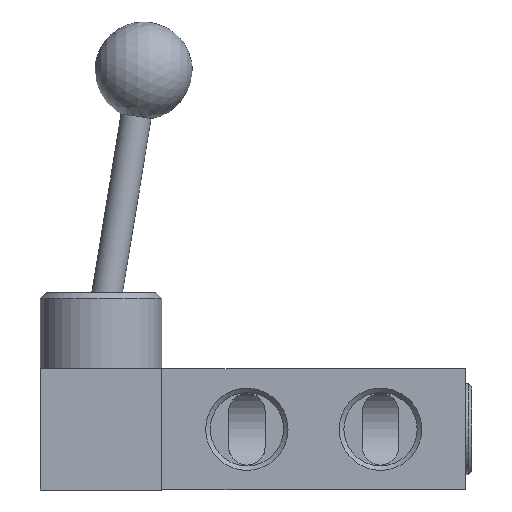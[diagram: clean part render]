
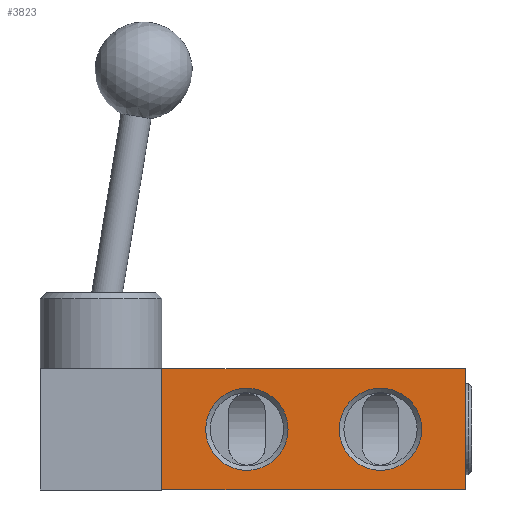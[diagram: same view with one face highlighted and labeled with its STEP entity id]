
A CAD part, front view. The second image highlights one B-rep face of the part: STEP entity #3823.
In plain terms, the highlighted planar face has unit normal (0, -1, 0).
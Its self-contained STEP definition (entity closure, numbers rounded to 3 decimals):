
#242=LINE('',#5282,#448);
#262=LINE('',#5412,#468);
#276=LINE('',#5626,#482);
#279=LINE('',#5635,#485);
#448=VECTOR('',#4496,1000.);
#468=VECTOR('',#4524,1000.);
#482=VECTOR('',#4612,1000.);
#485=VECTOR('',#4625,1000.);
#909=ORIENTED_EDGE('',*,*,#1460,.T.);
#910=ORIENTED_EDGE('',*,*,#1461,.T.);
#911=ORIENTED_EDGE('',*,*,#1459,.T.);
#912=ORIENTED_EDGE('',*,*,#1409,.F.);
#913=ORIENTED_EDGE('',*,*,#1455,.F.);
#914=ORIENTED_EDGE('',*,*,#1380,.T.);
#1380=EDGE_CURVE('',#1691,#1689,#242,.T.);
#1409=EDGE_CURVE('',#1719,#1716,#262,.T.);
#1455=EDGE_CURVE('',#1691,#1719,#276,.T.);
#1459=EDGE_CURVE('',#1689,#1716,#279,.T.);
#1460=EDGE_CURVE('',#1766,#1766,#1911,.F.);
#1461=EDGE_CURVE('',#1767,#1767,#1912,.F.);
#1689=VERTEX_POINT('',#5280);
#1691=VERTEX_POINT('',#5283);
#1716=VERTEX_POINT('',#5406);
#1719=VERTEX_POINT('',#5411);
#1766=VERTEX_POINT('',#5638);
#1767=VERTEX_POINT('',#5640);
#1911=CIRCLE('',#4083,13.559);
#1912=CIRCLE('',#4084,13.559);
#2087=EDGE_LOOP('',(#909));
#2088=EDGE_LOOP('',(#910));
#2089=EDGE_LOOP('',(#911,#912,#913,#914));
#2361=FACE_BOUND('',#2087,.T.);
#2362=FACE_BOUND('',#2088,.T.);
#2363=FACE_BOUND('',#2089,.T.);
#2540=PLANE('',#4082);
#3823=ADVANCED_FACE('',(#2361,#2362,#2363),#2540,.T.);
#4082=AXIS2_PLACEMENT_3D('',#5636,#4626,#4627);
#4083=AXIS2_PLACEMENT_3D('',#5637,#4628,#4629);
#4084=AXIS2_PLACEMENT_3D('',#5639,#4630,#4631);
#4496=DIRECTION('',(1.,0.,0.));
#4524=DIRECTION('',(1.,0.,0.));
#4612=DIRECTION('',(0.,0.,1.));
#4625=DIRECTION('',(0.,0.,1.));
#4626=DIRECTION('',(0.,-1.,0.));
#4627=DIRECTION('',(1.,0.,0.));
#4628=DIRECTION('',(0.,-1.,0.));
#4629=DIRECTION('',(0.,0.,-1.));
#4630=DIRECTION('',(0.,-1.,0.));
#4631=DIRECTION('',(0.,0.,-1.));
#5280=CARTESIAN_POINT('',(0.,-40.,-20.));
#5282=CARTESIAN_POINT('',(-100.,-40.,-20.));
#5283=CARTESIAN_POINT('',(-100.,-40.,-20.));
#5406=CARTESIAN_POINT('',(0.,-40.,20.));
#5411=CARTESIAN_POINT('',(-100.,-40.,20.));
#5412=CARTESIAN_POINT('',(-100.,-40.,20.));
#5626=CARTESIAN_POINT('',(-100.,-40.,-20.));
#5635=CARTESIAN_POINT('',(0.,-40.,-20.));
#5636=CARTESIAN_POINT('',(-100.,-40.,-20.));
#5637=CARTESIAN_POINT('',(-72.,-40.,0.));
#5638=CARTESIAN_POINT('',(-72.,-40.,-13.559));
#5639=CARTESIAN_POINT('',(-28.,-40.,0.));
#5640=CARTESIAN_POINT('',(-28.,-40.,-13.559));
